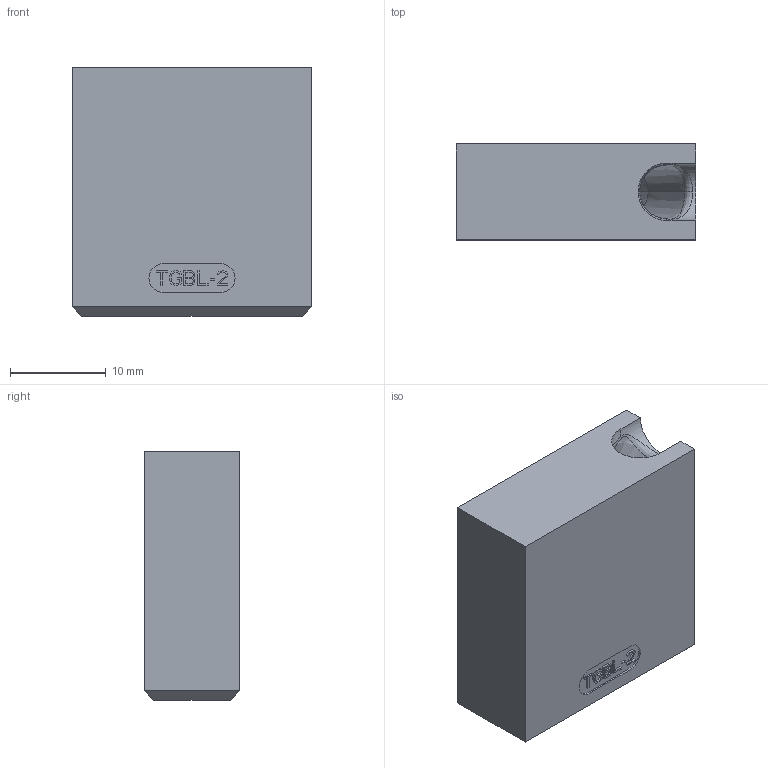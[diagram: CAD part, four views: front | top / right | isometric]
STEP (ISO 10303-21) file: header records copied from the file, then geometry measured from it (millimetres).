
FILE_DESCRIPTION((''),'2;1');
FILE_NAME('TGBL-2','2026-08-12T11:49:40',('gsawatzky'),(''),'CREO PARAMETRIC BY PTC INC, 2021304','CREO PARAMETRIC BY PTC INC, 2021304','');
FILE_SCHEMA(('AUTOMOTIVE_DESIGN { 1 0 10303 214 1 1 1 1 }'));
Length unit declared in the file: millimetre
Products named in the file (1): TGBL-2
Bounding box: 25 x 10 x 26 mm (x, y, z)
Volume: 5867.1 mm3; surface area: 2780.6 mm2
Topology: 1 solids, 1 shells, 205 faces, 555 edges, 359 vertices
Faces by surface type: plane 171, bspline 14, cylinder 7, sphere 5, cone 4, extrusion 2, torus 2
Entity records: 10061 total; most frequent: CARTESIAN_POINT 3257, ORIENTED_EDGE 1100, DIRECTION 937, PRESENTATION_STYLE_ASSIGNMENT 551, STYLED_ITEM 551, CURVE_STYLE 550, EDGE_CURVE 550, VECTOR 489
